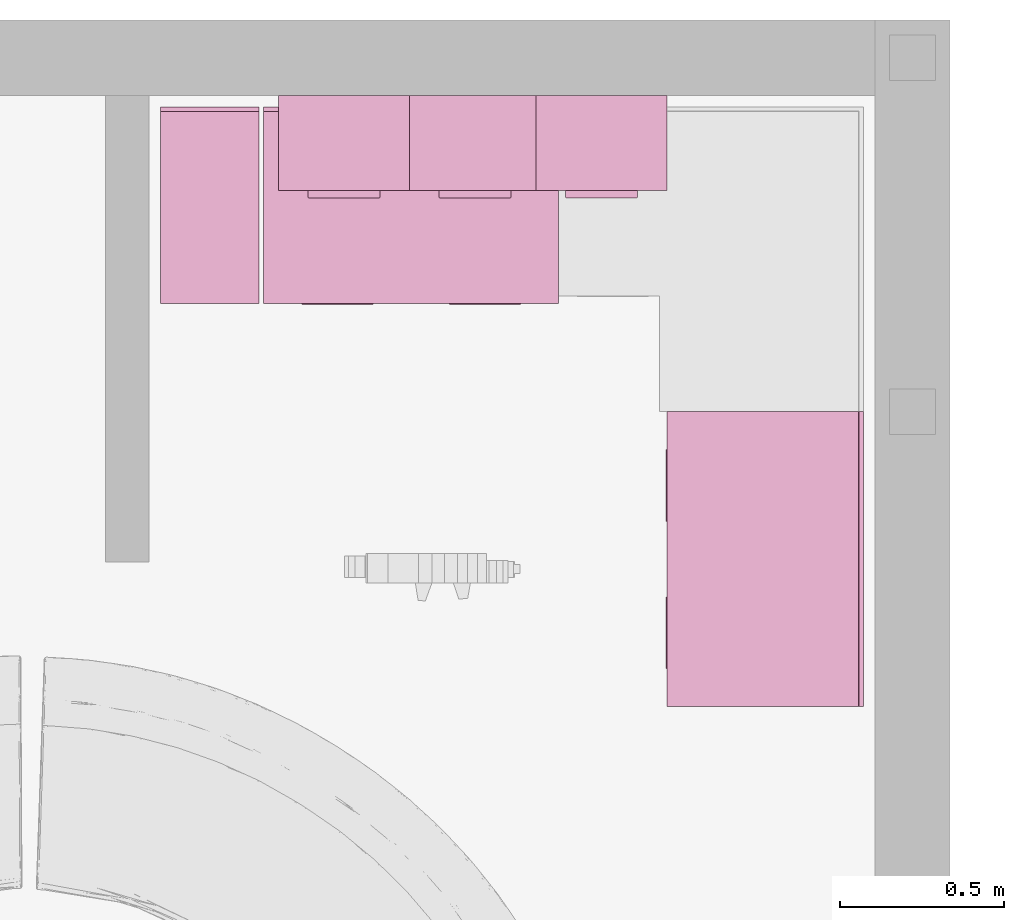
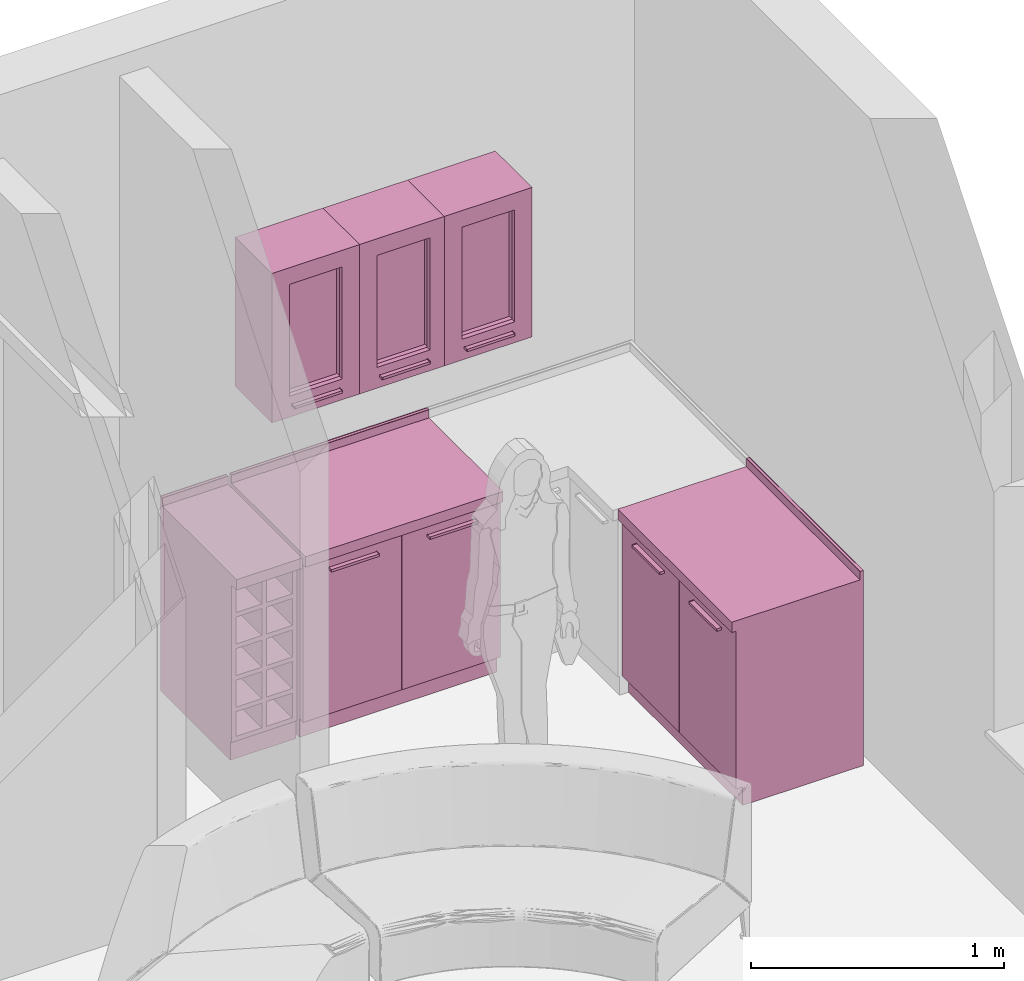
# One storey, part 6 of 7: 6 furnishings.
"""IFC2X3 building model written with IfcOpenShell, lengths in metres."""

from ifc_helpers import new_model, entity, si_unit, converted_unit, derived_unit, direction, frame, frame_2d, origin, origin_2d_with_axis, place, context, subcontext, project, spatial, polyline, circle_curve, parameter, trimmed, segment, composite_curve, rectangle, outline, extrude, faceted_brep, source, transform, mapped, material, material_list, type_object, type_shapes, element, save


model = new_model("IFC2X3")

# Units and contexts
model_context = context("Model", 3, precision=1e-05, world=origin(), true_north=direction((6.123233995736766e-17, 1.0)))
body_context = subcontext(model_context, "Body", "Model", "MODEL_VIEW")
ifc_project = project(units=[si_unit("LENGTHUNIT", "METRE"), si_unit("AREAUNIT", "SQUARE_METRE"), converted_unit("PLANEANGLEUNIT", "DEGREE", entity("IfcPlaneAngleMeasure", 0.017453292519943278), si_unit("PLANEANGLEUNIT", "RADIAN"), dimensions=[0, 0, 0, 0, 0, 0, 0]), derived_unit("THERMALTRANSMITTANCEUNIT", [(si_unit("MASSUNIT", "GRAM", prefix="KILO"), 1), (si_unit("THERMODYNAMICTEMPERATUREUNIT", "KELVIN"), -1), (si_unit("TIMEUNIT", "SECOND"), -3)])], contexts=[model_context])

# Site, building, storey, space
site_placement = place(None, origin())
site = spatial("IfcSite", under=ifc_project, at=site_placement, Name="Default", CompositionType="ELEMENT")
building_placement = place(site_placement, origin())
building = spatial("IfcBuilding", under=site, at=building_placement, CompositionType="ELEMENT")
storey_placement = place(building_placement, origin())
storey = spatial("IfcBuildingStorey", under=building, at=storey_placement, Name="0 - Ground Floor", CompositionType="ELEMENT", Elevation=0.0)
space_placement = place(storey_placement, origin())
space = spatial("IfcSpace", under=storey, at=space_placement, Name="12", CompositionType="ELEMENT", InteriorOrExteriorSpace="INTERNAL")

# Furnishings
ifc_material_1 = material(Name="<Unnamed>")
furniture_type_1 = type_object("IfcFurnitureType", Name="Wine Rack:600 x 300 x 900mm", AssemblyPlace="NOTDEFINED", material=ifc_material_1)
shared_shape_1 = source(origin(), body_context, "Body", "SweptSolid", [
    extrude(outline(polyline([(-0.14999999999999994, -0.2845000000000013), (0.14999999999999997, -0.2845000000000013), (0.14999999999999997, 0.2735000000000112), (0.12799999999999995, 0.2735000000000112), (0.12799999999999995, -0.2625000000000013), (-0.12799999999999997, -0.2625000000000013), (-0.12799999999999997, 0.2734999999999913), (-0.14999999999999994, 0.2734999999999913), (-0.14999999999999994, -0.2845000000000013)])), frame((0.04470032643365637, -0.28450000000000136, 0.08999999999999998), z_axis=(0.0, 0.0, 1.0), x_axis=(-1.0, 0.0, 0.0)), (0.0, 0.0, 1.0), 0.7600000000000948),
    extrude(rectangle(XDim=0.2999999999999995, YDim=0.5999999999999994, at=frame_2d((0.0, -2.7755575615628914e-17), x_axis=(1.0, 0.0))), frame((0.044700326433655, -0.2999999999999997, 0.8500000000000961), z_axis=(0.0, 0.0, 1.0), x_axis=(-1.0, 0.0, 0.0)), (0.0, 0.0, 1.0), 0.05),
    extrude(rectangle(XDim=0.29999999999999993, YDim=0.5500000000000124, at=origin_2d_with_axis()), frame((0.04470032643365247, -0.2755337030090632, 0.0), z_axis=(0.0, 0.0, 1.0), x_axis=(-1.0, 0.0, 0.0)), (0.0, 0.0, 1.0), 0.08999999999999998),
    extrude(outline(composite_curve([segment(polyline([(-0.006572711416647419, -0.01314533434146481), (-0.005068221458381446, -0.01314533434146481)]), True, "CONTINUOUS"), segment(polyline([(-0.005068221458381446, -0.01314533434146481), (-0.005068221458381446, -0.011141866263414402)]), True, "CONTINUOUS"), segment(polyline([(-0.005068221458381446, -0.011141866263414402), (0.0064272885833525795, -0.011141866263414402)]), True, "CONTINUOUS"), segment(trimmed(circle_curve(frame_2d((0.0064272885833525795, -0.009141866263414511), x_axis=(1.0, 0.0)), 0.002), [parameter(269.9999999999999)], [parameter(0.0)], True, "PARAMETER"), True, "CONTINUOUS"), segment(polyline([(0.00842728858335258, -0.009141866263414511), (0.00842728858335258, 0.028858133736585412)]), True, "CONTINUOUS"), segment(polyline([(0.00842728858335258, 0.028858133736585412), (-0.0065727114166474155, 0.028858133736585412)]), True, "CONTINUOUS"), segment(polyline([(-0.006572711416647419, 0.028858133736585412), (-0.006572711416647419, -0.01314533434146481)]), True, "CONTINUOUS")], self_intersect=False)), frame((-0.10529967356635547, -0.006572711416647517, 0.9288581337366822), z_axis=(1.0, 0.0, 0.0), x_axis=(0.0, -1.0, 0.0)), (0.0, 0.0, 1.0), 0.3000000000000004),
    extrude(outline(polyline([(-0.3442000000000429, -0.12800000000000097), (-0.3222000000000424, -0.12800000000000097), (-0.3222000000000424, -0.010999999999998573), (-0.2032000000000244, -0.010999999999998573), (-0.20320000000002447, -0.1280000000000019), (-0.18120000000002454, -0.12800000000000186), (-0.18120000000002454, -0.010999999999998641), (-0.051200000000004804, -0.010999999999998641), (-0.05120000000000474, -0.12800000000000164), (-0.029200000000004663, -0.12800000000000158), (-0.029200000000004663, -0.010999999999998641), (0.10080000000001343, -0.010999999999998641), (0.1008000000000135, -0.12800000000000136), (0.12280000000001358, -0.12800000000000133), (0.12280000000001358, -0.010999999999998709), (0.2528000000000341, -0.010999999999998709), (0.2528000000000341, -0.12800000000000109), (0.27480000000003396, -0.12800000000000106), (0.27480000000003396, -0.010999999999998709), (0.41580000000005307, -0.010999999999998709), (0.41580000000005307, 0.01100000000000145), (0.27480000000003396, 0.011000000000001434), (0.27480000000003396, 0.12799999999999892), (0.2528000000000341, 0.12799999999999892), (0.2528000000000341, 0.011000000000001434), (0.12280000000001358, 0.011000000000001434), (0.12280000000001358, 0.12799999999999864), (0.10080000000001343, 0.12799999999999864), (0.10080000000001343, 0.011000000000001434), (-0.029200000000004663, 0.011000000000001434), (-0.029200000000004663, 0.1279999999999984), (-0.051200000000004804, 0.1279999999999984), (-0.051200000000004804, 0.011000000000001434), (-0.18120000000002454, 0.011000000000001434), (-0.18120000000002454, 0.12799999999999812), (-0.20320000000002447, 0.12799999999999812), (-0.20320000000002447, 0.011000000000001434), (-0.3222000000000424, 0.011000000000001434), (-0.3222000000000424, 0.12799999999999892), (-0.3442000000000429, 0.12799999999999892), (-0.3442000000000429, -0.12800000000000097)])), frame((0.0447003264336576, -0.5580000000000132, 0.43420000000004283), z_axis=(0.0, 1.0, 0.0), x_axis=(0.0, 0.0, 1.0)), (0.0, 0.0, 1.0), 0.5360000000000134),
])
type_shapes(furniture_type_1, [shared_shape_1])
furnishing_1_placement = place(space_placement, frame((1.277375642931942, 3.5020517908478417, 0.0)))
element("IfcFurnishingElement", 1, at=furnishing_1_placement, inside=space, type_object=furniture_type_1, material=ifc_material_1, Name="Wine Rack:600 x 300 x 900mm", ObjectType="Wine Rack:600 x 300 x 900mm", context=body_context, shape_type="MappedRepresentation", body=[
    mapped(shared_shape_1, transform((0.0, 0.0, 0.0), scale=1.0)),
])
furniture_type_2 = type_object("IfcFurnitureType", Name="Base - Double Door:600 x 900 x 900mm", AssemblyPlace="NOTDEFINED", material=ifc_material_1)
shared_shape_2 = source(origin(), body_context, "Body", "SweptSolid", [
    extrude(outline(composite_curve([segment(polyline([(-0.013833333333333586, -0.10800000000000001), (0.00666666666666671, -0.10800000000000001)]), True, "CONTINUOUS"), segment(trimmed(circle_curve(frame_2d((0.00666666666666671, -0.10750000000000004), x_axis=(0.0, -1.0)), 0.000499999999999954), [parameter(0.0)], [parameter(90.00000000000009)], True, "PARAMETER"), True, "CONTINUOUS"), segment(polyline([(0.0071666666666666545, -0.10750000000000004), (0.0071666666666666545, 0.10749999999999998)]), True, "CONTINUOUS"), segment(trimmed(circle_curve(frame_2d((0.00666666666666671, 0.10749999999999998), x_axis=(1.0, 0.0)), 0.0004999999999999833), [parameter(3.5622212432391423e-13)], [parameter(90.00000000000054)], True, "PARAMETER"), True, "CONTINUOUS"), segment(polyline([(0.00666666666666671, 0.10799999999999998), (-0.01383333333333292, 0.10799999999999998)]), True, "CONTINUOUS"), segment(polyline([(-0.01383333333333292, 0.10799999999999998), (-0.013833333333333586, -0.10800000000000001)]), True, "CONTINUOUS")], self_intersect=False)), frame((0.2697003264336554, -0.5938333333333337, 0.7899451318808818), z_axis=(0.0, 0.0, 1.0), x_axis=(0.0, -1.0, 0.0)), (0.0, 0.0, 1.0), 0.00648909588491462),
    extrude(outline(composite_curve([segment(polyline([(-0.014166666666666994, -0.11000000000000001), (0.006333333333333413, -0.11000000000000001)]), True, "CONTINUOUS"), segment(trimmed(circle_curve(frame_2d((0.006333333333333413, -0.10750000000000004), x_axis=(0.0, -1.0)), 0.002499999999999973), [parameter(0.0)], [parameter(89.99999999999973)], True, "PARAMETER"), True, "CONTINUOUS"), segment(polyline([(0.00883333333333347, -0.10750000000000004), (0.00883333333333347, 0.10749999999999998)]), True, "CONTINUOUS"), segment(trimmed(circle_curve(frame_2d((0.006333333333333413, 0.10749999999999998), x_axis=(1.0, 0.0)), 0.0025000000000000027), [parameter(0.0)], [parameter(90.00000000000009)], True, "PARAMETER"), True, "CONTINUOUS"), segment(polyline([(0.006333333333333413, 0.10999999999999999), (-0.014166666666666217, 0.10999999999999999)]), True, "CONTINUOUS"), segment(polyline([(-0.014166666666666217, 0.10999999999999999), (-0.014166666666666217, 0.10799999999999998)]), True, "CONTINUOUS"), segment(polyline([(-0.014166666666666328, 0.10799999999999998), (0.006333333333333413, 0.10799999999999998)]), True, "CONTINUOUS"), segment(trimmed(circle_curve(frame_2d((0.006333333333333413, 0.10749999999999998), x_axis=(1.0, 0.0)), 0.0004999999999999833), [parameter(0.0)], [parameter(90.00000000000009)], True, "PARAMETER"), False, "CONTINUOUS"), segment(polyline([(0.006833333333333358, 0.10749999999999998), (0.006833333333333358, -0.10750000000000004)]), True, "CONTINUOUS"), segment(trimmed(circle_curve(frame_2d((0.006333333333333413, -0.10750000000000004), x_axis=(0.0, -1.0)), 0.000499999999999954), [parameter(0.0)], [parameter(89.99999999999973)], True, "PARAMETER"), False, "CONTINUOUS"), segment(polyline([(0.006333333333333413, -0.10800000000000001), (-0.014166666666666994, -0.10800000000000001)]), True, "CONTINUOUS"), segment(polyline([(-0.014166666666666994, -0.10800000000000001), (-0.014166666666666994, -0.11000000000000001)]), True, "CONTINUOUS")], self_intersect=False)), frame((0.2697003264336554, -0.594166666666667, 0.7871797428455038), z_axis=(0.0, 0.0, 1.0), x_axis=(0.0, -1.0, 0.0)), (0.0, 0.0, 1.0), 0.012000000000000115),
    extrude(outline(composite_curve([segment(polyline([(-0.013833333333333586, -0.10799999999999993), (0.00666666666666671, -0.10799999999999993)]), True, "CONTINUOUS"), segment(trimmed(circle_curve(frame_2d((0.00666666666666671, -0.10749999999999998), x_axis=(0.0, -1.0)), 0.000499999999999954), [parameter(0.0)], [parameter(90.00000000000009)], True, "PARAMETER"), True, "CONTINUOUS"), segment(polyline([(0.0071666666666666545, -0.10749999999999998), (0.0071666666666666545, 0.10750000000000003)]), True, "CONTINUOUS"), segment(trimmed(circle_curve(frame_2d((0.00666666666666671, 0.10750000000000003), x_axis=(1.0, 0.0)), 0.0004999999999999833), [parameter(3.5622212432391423e-13)], [parameter(90.00000000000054)], True, "PARAMETER"), True, "CONTINUOUS"), segment(polyline([(0.00666666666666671, 0.10800000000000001), (-0.01383333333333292, 0.10800000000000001)]), True, "CONTINUOUS"), segment(polyline([(-0.01383333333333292, 0.10800000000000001), (-0.013833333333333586, -0.10799999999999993)]), True, "CONTINUOUS")], self_intersect=False)), frame((-0.18029967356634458, -0.5938333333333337, 0.7899451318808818), z_axis=(0.0, 0.0, 1.0), x_axis=(0.0, -1.0, 0.0)), (0.0, 0.0, 1.0), 0.00648909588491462),
    extrude(outline(composite_curve([segment(polyline([(-0.014166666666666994, -0.11000000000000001), (0.006333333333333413, -0.11000000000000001)]), True, "CONTINUOUS"), segment(trimmed(circle_curve(frame_2d((0.006333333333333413, -0.10750000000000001), x_axis=(0.0, -1.0)), 0.002499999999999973), [parameter(0.0)], [parameter(89.99999999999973)], True, "PARAMETER"), True, "CONTINUOUS"), segment(polyline([(0.00883333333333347, -0.10750000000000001), (0.00883333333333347, 0.1075)]), True, "CONTINUOUS"), segment(trimmed(circle_curve(frame_2d((0.006333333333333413, 0.1075), x_axis=(1.0, 0.0)), 0.0025000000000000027), [parameter(0.0)], [parameter(90.00000000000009)], True, "PARAMETER"), True, "CONTINUOUS"), segment(polyline([(0.006333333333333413, 0.11000000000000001), (-0.014166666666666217, 0.11000000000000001)]), True, "CONTINUOUS"), segment(polyline([(-0.014166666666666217, 0.11000000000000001), (-0.014166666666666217, 0.10799999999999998)]), True, "CONTINUOUS"), segment(polyline([(-0.014166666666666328, 0.10799999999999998), (0.006333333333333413, 0.10799999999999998)]), True, "CONTINUOUS"), segment(trimmed(circle_curve(frame_2d((0.006333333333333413, 0.1075), x_axis=(1.0, 0.0)), 0.0004999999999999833), [parameter(0.0)], [parameter(90.00000000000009)], True, "PARAMETER"), False, "CONTINUOUS"), segment(polyline([(0.006833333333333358, 0.1075), (0.006833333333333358, -0.10750000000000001)]), True, "CONTINUOUS"), segment(trimmed(circle_curve(frame_2d((0.006333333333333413, -0.10750000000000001), x_axis=(0.0, -1.0)), 0.000499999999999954), [parameter(0.0)], [parameter(89.99999999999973)], True, "PARAMETER"), False, "CONTINUOUS"), segment(polyline([(0.006333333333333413, -0.10799999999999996), (-0.014166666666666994, -0.10799999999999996)]), True, "CONTINUOUS"), segment(polyline([(-0.014166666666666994, -0.10799999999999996), (-0.014166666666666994, -0.11000000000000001)]), True, "CONTINUOUS")], self_intersect=False)), frame((-0.18029967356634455, -0.594166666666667, 0.7871797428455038), z_axis=(0.0, 0.0, 1.0), x_axis=(0.0, -1.0, 0.0)), (0.0, 0.0, 1.0), 0.012000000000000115),
    extrude(outline(polyline([(-0.45, -0.28450000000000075), (0.4499999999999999, -0.28450000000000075), (0.45, 0.2735000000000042), (0.42800000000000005, 0.2735000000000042), (0.4279999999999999, -0.26250000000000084), (-0.42800000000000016, -0.26250000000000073), (-0.4279999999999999, 0.2734999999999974), (-0.4499999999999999, 0.2734999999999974), (-0.45, -0.28450000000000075)])), frame((0.04470032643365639, -0.28450000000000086, 0.08999999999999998), z_axis=(0.0, 0.0, 1.0), x_axis=(-1.0, 0.0, 0.0)), (0.0, 0.0, 1.0), 0.7600000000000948),
    extrude(rectangle(XDim=0.44899999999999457, YDim=0.022000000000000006, at=origin_2d_with_axis()), frame((0.27020032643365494, -0.5690000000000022, 0.08999999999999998)), (0.0, 0.0, 1.0), 0.7600000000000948),
    extrude(rectangle(XDim=0.021999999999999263, YDim=0.4490000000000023, at=frame_2d((-3.382710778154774e-17, -1.3877787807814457e-17), x_axis=(1.0, 0.0))), frame((-0.1807996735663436, -0.5690000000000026, 0.08999999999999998), z_axis=(0.0, 0.0, 1.0), x_axis=(0.0, 1.0, 0.0)), (0.0, 0.0, 1.0), 0.7600000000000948),
    extrude(rectangle(XDim=0.8999999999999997, YDim=0.5999999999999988, at=frame_2d((0.0, 2.7755575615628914e-17), x_axis=(1.0, 0.0))), frame((0.04470032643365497, -0.2999999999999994, 0.8500000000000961), z_axis=(0.0, 0.0, 1.0), x_axis=(-1.0, 0.0, 0.0)), (0.0, 0.0, 1.0), 0.05),
    extrude(rectangle(XDim=0.9000000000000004, YDim=0.5500000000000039, at=frame_2d((5.551115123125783e-17, 0.0), x_axis=(1.0, 0.0))), frame((0.04470032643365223, -0.27553370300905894, 0.0), z_axis=(0.0, 0.0, 1.0), x_axis=(-1.0, 0.0, 0.0)), (0.0, 0.0, 1.0), 0.08999999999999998),
    extrude(outline(composite_curve([segment(polyline([(-0.006572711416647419, -0.013145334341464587), (-0.005068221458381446, -0.013145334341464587)]), True, "CONTINUOUS"), segment(polyline([(-0.005068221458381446, -0.013145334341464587), (-0.005068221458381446, -0.01114186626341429)]), True, "CONTINUOUS"), segment(polyline([(-0.005068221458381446, -0.01114186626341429), (0.0064272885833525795, -0.01114186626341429)]), True, "CONTINUOUS"), segment(trimmed(circle_curve(frame_2d((0.0064272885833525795, -0.009141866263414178), x_axis=(1.0, 0.0)), 0.002), [parameter(269.9999999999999)], [parameter(359.99999999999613)], True, "PARAMETER"), True, "CONTINUOUS"), segment(polyline([(0.00842728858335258, -0.009141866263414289), (0.00842728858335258, 0.028858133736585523)]), True, "CONTINUOUS"), segment(polyline([(0.00842728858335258, 0.028858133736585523), (-0.0065727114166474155, 0.028858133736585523)]), True, "CONTINUOUS"), segment(polyline([(-0.006572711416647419, 0.028858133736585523), (-0.006572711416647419, -0.013145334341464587)]), True, "CONTINUOUS")], self_intersect=False)), frame((-0.4052996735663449, -0.006572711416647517, 0.9288581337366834), z_axis=(1.0, 0.0, 0.0), x_axis=(0.0, -1.0, 0.0)), (0.0, 0.0, 1.0), 0.9),
])
type_shapes(furniture_type_2, [shared_shape_2])
furnishing_2_placement = place(space_placement, frame((3.3180759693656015, 2.1657521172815, 0.0), z_axis=(0.0, 0.0, 1.0), x_axis=(0.0, -1.0, 0.0)))
element("IfcFurnishingElement", 2, at=furnishing_2_placement, inside=space, type_object=furniture_type_2, material=ifc_material_1, Name="Base - Double Door:600 x 900 x 900mm", ObjectType="Base - Double Door:600 x 900 x 900mm", context=body_context, shape_type="MappedRepresentation", body=[
    mapped(shared_shape_2, transform((0.0, 0.0, 0.0), scale=1.0)),
])
furnishing_3_placement = place(space_placement, frame((1.8923756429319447, 3.502051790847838, 0.0)))
element("IfcFurnishingElement", 3, at=furnishing_3_placement, inside=space, type_object=furniture_type_2, material=ifc_material_1, Name="Base - Double Door:600 x 900 x 900mm", ObjectType="Base - Double Door:600 x 900 x 900mm", context=body_context, shape_type="MappedRepresentation", body=[
    mapped(shared_shape_2, transform((0.0, 0.0, 0.0), scale=1.0)),
])
ifc_material_2 = material(Name="Glass")
ifc_material_list = material_list([ifc_material_1, ifc_material_2])
furniture_type_3 = type_object("IfcFurnitureType", Name="Upper Cabinet - 1 Door with Glass:400 x 720 x 290mm", AssemblyPlace="NOTDEFINED", material=ifc_material_list)
shared_shape_3 = source(origin(), body_context, "Body", "Brep", [
    faceted_brep([(0.28249999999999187, 0.4260000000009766, 0.05925448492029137), (0.06749999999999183, 0.4260000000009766, 0.05925448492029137), (0.0671464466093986, 0.4258535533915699, 0.05925448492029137), (0.06699999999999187, 0.42550000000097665, 0.05925448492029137), (0.06699999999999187, 0.4050000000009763, 0.05925448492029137), (0.2829999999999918, 0.40500000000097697, 0.05925448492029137), (0.2829999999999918, 0.42550000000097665, 0.05925448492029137), (0.2828535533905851, 0.4258535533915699, 0.05925448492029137), (0.06699999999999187, 0.4050000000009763, 0.05276538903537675), (0.06699999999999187, 0.42550000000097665, 0.05276538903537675), (0.0671464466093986, 0.4258535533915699, 0.05276538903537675), (0.06749999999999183, 0.4260000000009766, 0.05276538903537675), (0.28249999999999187, 0.4260000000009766, 0.05276538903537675), (0.2828535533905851, 0.4258535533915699, 0.05276538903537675), (0.2829999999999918, 0.42550000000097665, 0.05276538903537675), (0.2829999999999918, 0.40500000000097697, 0.05276538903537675), (0.06699999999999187, 0.42550000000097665, 0.05616822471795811), (0.06714879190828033, 0.42585588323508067, 0.05642516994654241), (0.06749999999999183, 0.4260000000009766, 0.055851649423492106), (0.28249999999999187, 0.4260000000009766, 0.05616822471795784), (0.2828558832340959, 0.42585120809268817, 0.05642516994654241), (0.2829999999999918, 0.42550000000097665, 0.055851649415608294)], [[[0, 1, 2, 3, 4, 5, 6, 7]], [[8, 9, 10, 11, 12, 13, 14, 15]], [[8, 4, 3, 16, 9]], [[9, 16, 10]], [[17, 2, 1]], [[10, 17, 18]], [[17, 3, 2]], [[18, 17, 1]], [[18, 11, 10]], [[16, 17, 10]], [[17, 16, 3]], [[0, 19, 12, 11, 18, 1]], [[12, 19, 13]], [[20, 7, 6]], [[13, 20, 21]], [[20, 0, 7]], [[21, 20, 6]], [[21, 14, 13]], [[19, 20, 13]], [[20, 19, 0]], [[5, 15, 14, 21, 6]], [[15, 5, 4, 8]]]),
    faceted_brep([(0.06499999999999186, 0.4050000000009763, 0.04999999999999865), (0.06699999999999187, 0.4050000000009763, 0.04999999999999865), (0.06699999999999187, 0.4050000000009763, 0.0619999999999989), (0.06499999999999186, 0.4050000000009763, 0.0619999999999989), (0.28499999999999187, 0.40500000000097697, 0.0619999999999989), (0.2829999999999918, 0.40500000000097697, 0.0619999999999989), (0.2829999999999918, 0.40500000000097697, 0.04999999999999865), (0.28499999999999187, 0.4050000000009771, 0.04999999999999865), (0.28499999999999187, 0.42550000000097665, 0.04999999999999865), (0.2829999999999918, 0.42550000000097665, 0.04999999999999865), (0.2828535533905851, 0.42585355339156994, 0.04999999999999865), (0.28249999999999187, 0.4260000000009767, 0.04999999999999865), (0.06749999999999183, 0.4260000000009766, 0.04999999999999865), (0.0671464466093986, 0.4258535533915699, 0.04999999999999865), (0.06699999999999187, 0.42550000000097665, 0.04999999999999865), (0.06499999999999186, 0.42550000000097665, 0.04999999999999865), (0.06573223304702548, 0.42726776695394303, 0.04999999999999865), (0.06749999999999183, 0.42800000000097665, 0.04999999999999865), (0.28249999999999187, 0.42800000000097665, 0.04999999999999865), (0.2842677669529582, 0.4272677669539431, 0.04999999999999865), (0.06499999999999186, 0.42550000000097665, 0.0619999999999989), (0.06699999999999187, 0.42550000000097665, 0.0619999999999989), (0.0671464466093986, 0.4258535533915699, 0.0619999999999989), (0.06749999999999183, 0.4260000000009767, 0.0619999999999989), (0.28249999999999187, 0.4260000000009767, 0.0619999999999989), (0.2828535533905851, 0.42585355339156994, 0.0619999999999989), (0.2829999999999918, 0.42550000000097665, 0.0619999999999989), (0.28499999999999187, 0.42550000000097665, 0.0619999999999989), (0.2842677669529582, 0.4272677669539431, 0.0619999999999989), (0.28249999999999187, 0.42800000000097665, 0.0619999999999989), (0.06749999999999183, 0.42800000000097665, 0.0619999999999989), (0.06573223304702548, 0.42726776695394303, 0.0619999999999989), (0.06699999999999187, 0.42550000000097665, 0.0530862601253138), (0.06699999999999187, 0.42550000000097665, 0.05582747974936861), (0.06699999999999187, 0.42550000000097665, 0.058913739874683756), (0.06714644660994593, 0.4258535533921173, 0.05445687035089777), (0.06749999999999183, 0.4260000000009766, 0.05308626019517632), (0.06749999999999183, 0.4260000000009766, 0.05599999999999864), (0.06714644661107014, 0.42585355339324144, 0.05919198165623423), (0.06749999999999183, 0.4260000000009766, 0.0589137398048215), (0.28249999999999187, 0.4260000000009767, 0.0530862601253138), (0.28249999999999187, 0.4260000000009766, 0.05582747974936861), (0.2824999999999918, 0.4260000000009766, 0.058913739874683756), (0.2828535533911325, 0.4258535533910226, 0.05445687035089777), (0.28285355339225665, 0.42585355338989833, 0.05919198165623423), (0.2829999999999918, 0.42550000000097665, 0.05308626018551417), (0.2829999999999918, 0.42550000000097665, 0.05600000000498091), (0.2829999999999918, 0.42550000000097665, 0.058913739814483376)], [[[0, 1, 2, 3]], [[4, 5, 6, 7]], [[8, 7, 6, 9, 10, 11, 12, 13, 14, 1, 0, 15, 16, 17, 18, 19]], [[15, 0, 3, 20]], [[20, 3, 2, 21, 22, 23, 24, 25, 26, 5, 4, 27, 28, 29, 30, 31]], [[21, 2, 1, 14, 32, 33, 34]], [[31, 16, 15, 20]], [[30, 17, 16, 31]], [[13, 35, 33, 32]], [[13, 12, 36, 37, 38, 35]], [[23, 22, 38]], [[21, 34, 33, 38]], [[21, 38, 22]], [[32, 14, 13]], [[33, 35, 38]], [[37, 39, 23, 38]], [[18, 17, 30, 29]], [[24, 23, 39, 37, 36, 12, 11, 40, 41, 42]], [[28, 19, 18, 29]], [[27, 8, 19, 28]], [[10, 43, 41, 40, 11]], [[24, 44, 25]], [[10, 9, 45, 43]], [[26, 25, 44]], [[24, 42, 41, 43, 44]], [[43, 45, 46, 47, 26, 44]], [[4, 7, 8, 27]], [[5, 26, 47, 46, 45, 9, 6]]]),
    faceted_brep([(-0.02500000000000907, 0.40500000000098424, 0.720000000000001), (0.3749999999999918, 0.40500000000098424, 0.720000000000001), (0.3749999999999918, 0.40500000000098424, 0.0), (-0.02500000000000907, 0.40500000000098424, 0.0), (0.05499999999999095, 0.40500000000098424, 0.640000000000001), (0.05499999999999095, 0.40500000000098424, 0.10000000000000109), (0.29499999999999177, 0.40500000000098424, 0.10000000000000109), (0.29499999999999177, 0.40500000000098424, 0.640000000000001), (-0.02500000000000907, 0.3830000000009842, 0.720000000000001), (-0.02500000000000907, 0.3830000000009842, 0.0), (0.3749999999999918, 0.3830000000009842, 0.0), (0.3749999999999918, 0.3830000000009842, 0.720000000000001), (0.05499999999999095, 0.3830000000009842, 0.640000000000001), (0.29499999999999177, 0.3830000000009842, 0.640000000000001), (0.29499999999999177, 0.3830000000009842, 0.10000000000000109), (0.05499999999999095, 0.3830000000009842, 0.10000000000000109)], [[[0, 1, 2, 3], [4, 5, 6, 7]], [[8, 9, 10, 11], [12, 13, 14, 15]], [[1, 0, 8, 11]], [[2, 1, 11, 10]], [[3, 2, 10, 9]], [[0, 3, 9, 8]], [[5, 4, 12, 15]], [[6, 5, 15, 14]], [[7, 6, 14, 13]], [[4, 7, 13, 12]]]),
    faceted_brep([(0.352999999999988, 0.38300000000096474, 0.022000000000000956), (-0.0030000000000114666, 0.38300000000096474, 0.022000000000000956), (-0.0030000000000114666, 0.13700000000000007, 0.022000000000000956), (0.352999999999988, 0.13700000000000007, 0.022000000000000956), (0.3749999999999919, 0.38300000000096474, 0.0), (0.3749999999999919, 0.11499999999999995, 0.0), (-0.025000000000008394, 0.11499999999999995, 0.0), (-0.025000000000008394, 0.38300000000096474, 0.0), (-0.02500000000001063, 0.38300000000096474, 0.7200000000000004), (0.37499999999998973, 0.38300000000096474, 0.7200000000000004), (0.352999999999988, 0.3830000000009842, 0.6980000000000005), (-0.0030000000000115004, 0.38300000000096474, 0.6980000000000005), (-0.02500000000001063, 0.11499999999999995, 0.7200000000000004), (0.37499999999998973, 0.11499999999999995, 0.7200000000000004), (0.352999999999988, 0.13700000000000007, 0.6980000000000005), (-0.0030000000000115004, 0.13700000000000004, 0.6980000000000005)], [[[0, 1, 2, 3]], [[4, 5, 6, 7]], [[4, 7, 8, 9], [0, 10, 11, 1]], [[8, 7, 6, 12]], [[12, 6, 5, 13]], [[13, 5, 4, 9]], [[10, 0, 3, 14]], [[14, 3, 2, 15]], [[15, 2, 1, 11]], [[9, 8, 12, 13]], [[11, 10, 14, 15]]]),
    faceted_brep([(0.05499999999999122, 0.3614999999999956, 0.6399999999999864), (0.2949999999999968, 0.3614999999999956, 0.6399999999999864), (0.2949999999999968, 0.3614999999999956, 0.0999999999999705), (0.05499999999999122, 0.3614999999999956, 0.0999999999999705), (0.05499999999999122, 0.3534999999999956, 0.6399999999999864), (0.05499999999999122, 0.3534999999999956, 0.0999999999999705), (0.2949999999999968, 0.3534999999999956, 0.0999999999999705), (0.2949999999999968, 0.3534999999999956, 0.6399999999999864)], [[[0, 1, 2, 3]], [[4, 5, 6, 7]], [[1, 0, 4, 7]], [[2, 1, 7, 6]], [[3, 2, 6, 5]], [[0, 3, 5, 4]]]),
])
type_shapes(furniture_type_3, [shared_shape_3])
for number, where, z_axis, x_axis, name in (
    (4, (2.6930759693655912, 3.652051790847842, 1.319785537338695), (0.0, 0.0, 1.0), (-1.0, 0.0, 0.0), "Upper Cabinet - 1 Door with Glass:400 x 720 x 290mm"),
    (5, (2.307075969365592, 3.652051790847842, 1.319785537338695), (0.0, 0.0, 1.0), (-1.0, 0.0, 0.0), "Upper Cabinet - 1 Door with Glass:400 x 720 x 290mm"),
    (6, (1.9070759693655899, 3.652051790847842, 1.319785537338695), (0.0, 0.0, 1.0), (-1.0, 0.0, 0.0), "Upper Cabinet - 1 Door with Glass:400 x 720 x 290mm"),
):
    element("IfcFurnishingElement", number, at=place(space_placement, frame(where, z_axis=z_axis, x_axis=x_axis)), inside=space, type_object=furniture_type_3, material=ifc_material_list, Name=name, ObjectType="Upper Cabinet - 1 Door with Glass:400 x 720 x 290mm", context=body_context, shape_type="MappedRepresentation", body=[
        mapped(shared_shape_3, transform((0.0, 0.0, 0.0), scale=1.0)),
    ])

save(model, "model.ifc")
